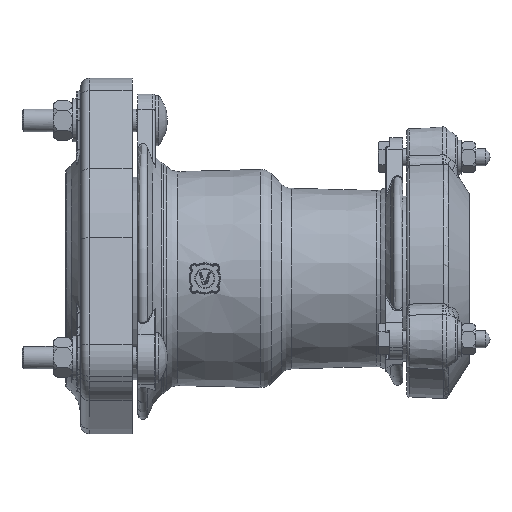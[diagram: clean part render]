
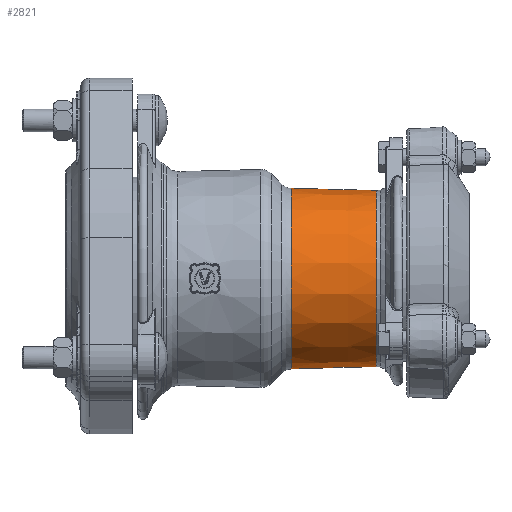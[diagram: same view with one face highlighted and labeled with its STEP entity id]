
A CAD part, front view. The second image highlights one B-rep face of the part: STEP entity #2821.
In plain terms, the highlighted conical face has half-angle 1.48 degrees and reference radius 62.299 mm.
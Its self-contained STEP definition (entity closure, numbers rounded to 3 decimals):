
#2790=CARTESIAN_POINT('',(-18.345,0.,61.53));
#2791=VERTEX_POINT('',#2790);
#2792=CARTESIAN_POINT('',(-18.345,0.0,0.0));
#2793=DIRECTION('',(1.0,0.0,0.0));
#2794=DIRECTION('',(0.0,1.0,0.0));
#2795=AXIS2_PLACEMENT_3D('',#2792,#2793,#2794);
#2796=CIRCLE('',#2795,61.53);
#2797=EDGE_CURVE('',#2791,#2791,#2796,.T.);
#2802=CARTESIAN_POINT('',(-48.096,0.0,0.0));
#2803=DIRECTION('',(-1.0,0.0,0.0));
#2804=DIRECTION('',(0.0,1.0,0.0));
#2805=AXIS2_PLACEMENT_3D('',#2802,#2803,#2804);
#2806=CONICAL_SURFACE('',#2805,62.299,1.48);
#2807=CARTESIAN_POINT('',(-77.846,0.,63.067));
#2808=VERTEX_POINT('',#2807);
#2809=CARTESIAN_POINT('',(-77.846,0.0,0.0));
#2810=DIRECTION('',(1.0,0.0,0.0));
#2811=DIRECTION('',(0.0,1.0,0.0));
#2812=AXIS2_PLACEMENT_3D('',#2809,#2810,#2811);
#2813=CIRCLE('',#2812,63.067);
#2814=EDGE_CURVE('',#2808,#2808,#2813,.T.);
#2815=ORIENTED_EDGE('',*,*,#2814,.T.);
#2816=EDGE_LOOP('',(#2815));
#2817=FACE_OUTER_BOUND('',#2816,.T.);
#2818=ORIENTED_EDGE('',*,*,#2797,.F.);
#2819=EDGE_LOOP('',(#2818));
#2820=FACE_BOUND('',#2819,.T.);
#2821=ADVANCED_FACE('',(#2817,#2820),#2806,.T.);
